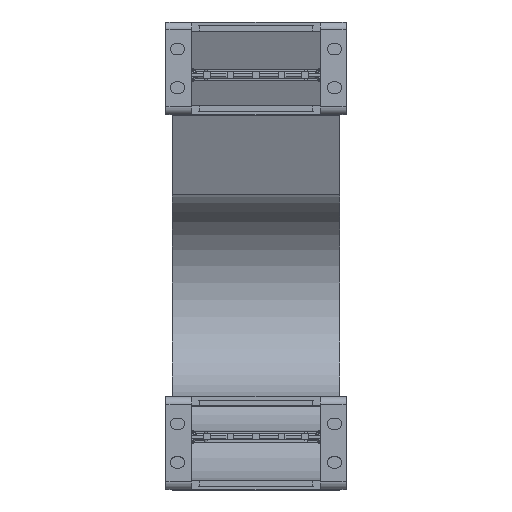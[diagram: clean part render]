
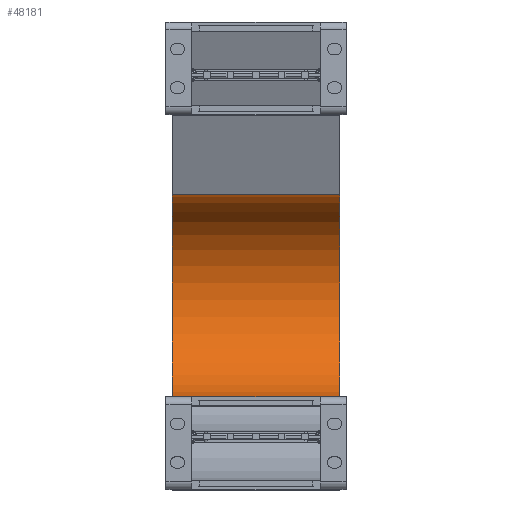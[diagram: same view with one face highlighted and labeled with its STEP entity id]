
A CAD part, top view. The second image highlights one B-rep face of the part: STEP entity #48181.
In plain terms, the highlighted cylindrical face has radius 39.5 mm (diameter 79 mm), a partial arc.
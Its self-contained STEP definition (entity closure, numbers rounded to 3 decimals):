
#47333=DIRECTION('',(-1.,0.,0.));
#47334=VECTOR('',#47333,65.);
#47335=CARTESIAN_POINT('',(32.5,36.,-400.));
#47336=LINE('',#47335,#47334);
#47347=DIRECTION('',(-1.,0.,0.));
#47348=VECTOR('',#47347,65.);
#47349=CARTESIAN_POINT('',(32.5,114.849,-403.448));
#47350=LINE('',#47349,#47348);
#47354=CARTESIAN_POINT('',(32.5,75.5,-400.));
#47355=DIRECTION('',(-1.,0.,0.));
#47356=DIRECTION('',(0.,0.996,-0.087));
#47357=AXIS2_PLACEMENT_3D('',#47354,#47355,#47356);
#47433=CARTESIAN_POINT('',(-32.5,75.5,-400.));
#47434=DIRECTION('',(-1.,0.,0.));
#47435=DIRECTION('',(0.,0.996,-0.087));
#47436=AXIS2_PLACEMENT_3D('',#47433,#47434,#47435);
#47555=CARTESIAN_POINT('',(32.5,114.849,-403.448));
#47556=CARTESIAN_POINT('',(-32.5,114.849,-403.448));
#47557=VERTEX_POINT('',#47555);
#47558=VERTEX_POINT('',#47556);
#47579=CARTESIAN_POINT('',(32.5,36.,-400.));
#47580=CARTESIAN_POINT('',(-32.5,36.,-400.));
#47581=VERTEX_POINT('',#47579);
#47582=VERTEX_POINT('',#47580);
#48167=CARTESIAN_POINT('',(1.,75.5,-400.));
#48168=DIRECTION('',(-1.,0.,0.));
#48169=DIRECTION('',(0.,-0.996,0.087));
#48170=AXIS2_PLACEMENT_3D('',#48167,#48168,#48169);
#48171=CYLINDRICAL_SURFACE('',#48170,39.5);
#48173=ORIENTED_EDGE('',*,*,#48172,.F.);
#48175=ORIENTED_EDGE('',*,*,#48174,.T.);
#48176=ORIENTED_EDGE('',*,*,#48150,.T.);
#48178=ORIENTED_EDGE('',*,*,#48177,.F.);
#48179=EDGE_LOOP('',(#48173,#48175,#48176,#48178));
#48180=FACE_OUTER_BOUND('',#48179,.F.);
#47358=CIRCLE('',#47357,39.5);
#47437=CIRCLE('',#47436,39.5);
#48150=EDGE_CURVE('',#47581,#47582,#47336,.T.);
#48172=EDGE_CURVE('',#47557,#47558,#47350,.T.);
#48174=EDGE_CURVE('',#47557,#47581,#47358,.T.);
#48177=EDGE_CURVE('',#47558,#47582,#47437,.T.);
#48181=ADVANCED_FACE('',(#48180),#48171,.F.);
